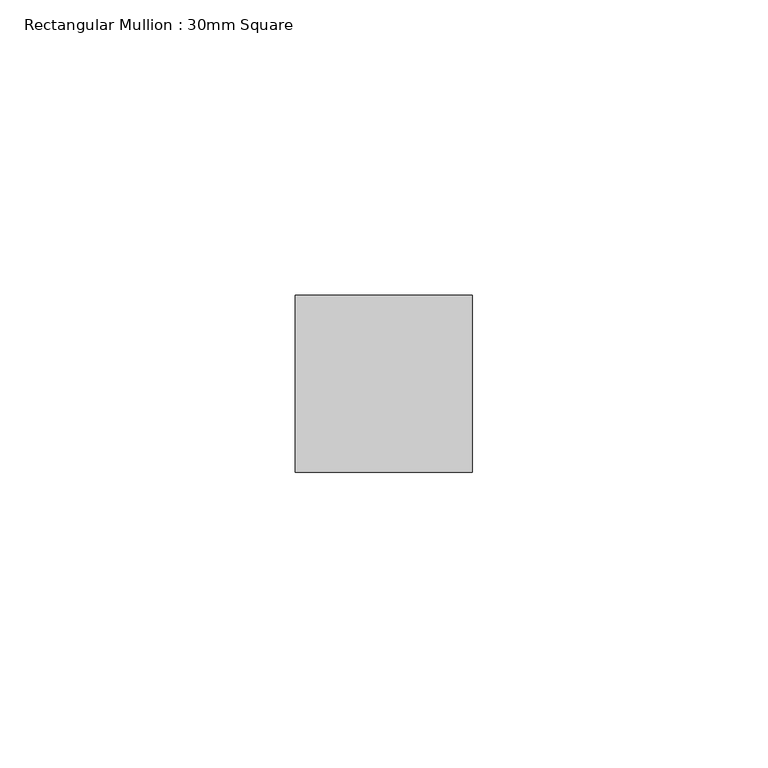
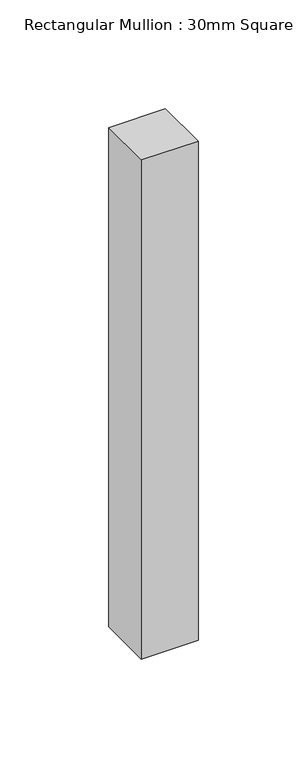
"""IFC4 building model written with IfcOpenShell, lengths in millimetres: member geometry, Rectangular Mullion : 30mm Square."""

from ifc_helpers import new_model, si_unit, frame, origin, place, context, project, spatial, polyline, outline, extrude, source, transform, mapped, element, save


def rectangular_mullion_30mm_square_8cdd7f34(model_context):
    return source(origin(), model_context, "Body", "SweptSolid", [
        extrude(outline(polyline([(0.0, 15.0), (0.0, -15.0), (-30.0, -15.0), (-30.0, 15.0), (0.0, 15.0)])), frame((0.0, 0.0, -280.0), z_axis=(0.0, 0.0, 1.0), x_axis=(1.0, 0.0, 0.0)), (0.0, 0.0, 1.0), 280.0),
    ])


if __name__ == "__main__":
    model = new_model("IFC4")
    model_context = context("Model", 3, world=origin())
    ifc_project = project(units=[si_unit("LENGTHUNIT", "METRE", prefix="MILLI")], contexts=[model_context])
    site = spatial("IfcSite", under=ifc_project)
    building = spatial("IfcBuilding", under=site)
    placement = place(None, origin())
    rectangular_mullion_30mm_square_shape = rectangular_mullion_30mm_square_8cdd7f34(model_context)
    element("IfcMember", 1, ObjectType="Rectangular Mullion : 30mm Square", at=placement, inside=building, context=model_context, shape_type="MappedRepresentation", body=[
        mapped(rectangular_mullion_30mm_square_shape, transform((0.0, 0.0, 0.0), x_axis=(1.0, 0.0, 0.0), y_axis=(0.0, 1.0, 0.0), z_axis=(0.0, 0.0, 1.0))),
    ])
    save(model, "model.ifc")
